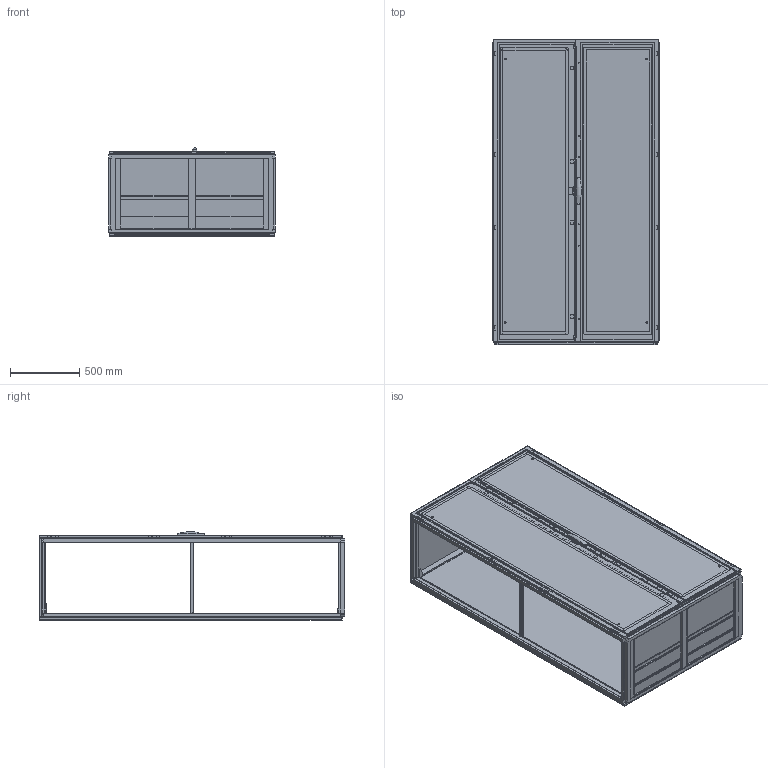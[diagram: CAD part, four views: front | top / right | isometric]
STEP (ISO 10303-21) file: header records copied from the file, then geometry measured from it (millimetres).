
FILE_DESCRIPTION(/* description */ ('STEP AP203'),/* implementation_level */ '2;1');
FILE_NAME(/* name */ 'MCD22126R5(0)',/* time_stamp */ '2024-02-27T15:24:53+01:00',/* author */ ('License CC BY-ND 4.0'),/* organization */ ('CADENAS'),/* preprocessor_version */ 'ST-DEVELOPER v19.3',/* originating_system */ 'PARTsolutions',/* authorisation */ ' ');
FILE_SCHEMA (('CONFIG_CONTROL_DESIGN'));
Length unit declared in the file: millimetre
Products named in the file (27): MCD22126R5(0); MCD22126R5_Frame; CRPK12(0)_Rear Panel Mounting Kit; CRP2212R5(0)_Rear Panel; CMB 600(0)_Middle Profile; CRPK12(0)_Rear Panel Bracket; DNMK02(0)_Hinge Right; DN2206RR5(0)_Right door; LSSDXXXX(0)_Lock; LSSD2200(0)_Espagnolette Top; LSSD2200(0)_Espagnolette Bottom; DNMK02(0)_Hinge Left; DN2206LR5(0)_Left door; LSEL2200(0)_Left Door Espagnolette; DNMK01(0)_Rod catches; CCR126R5(0)_Roof plate; LSSD2200(0)_Lock Catch; LSELXX12X(0)_Left Door Espagnolette; MPA06(0)_Mounting Plate Brackets 1; MP2212(0)_P1; MPA06(0)_Mounting Plate Brackets 2; MPA06(0)_Mounting Plate Brackets 3; MPA06(0)_Mounting Plate Brackets 4; Bottom Plate Profile_1200x600(0); CBPW1200D300(0)_Bottom Plate 3; CBP120(0)_Bottom Plate 1; CBP120(0)_Bottom Plate 2
Assembly tree (49 placements, depth 2):
  MCD22126R5(0)
    MCD22126R5_Frame
    CRPK12(0)_Rear Panel Mounting Kit  x8
    CRP2212R5(0)_Rear Panel
    CMB 600(0)_Middle Profile  x2
    CRPK12(0)_Rear Panel Bracket  x2
    DNMK02(0)_Hinge Right  x4
    DN2206RR5(0)_Right door
    LSSDXXXX(0)_Lock
    LSSD2200(0)_Espagnolette Top
    LSSD2200(0)_Espagnolette Bottom
    DNMK02(0)_Hinge Left  x4
    DN2206LR5(0)_Left door
    LSEL2200(0)_Left Door Espagnolette
    DNMK01(0)_Rod catches  x4
    CCR126R5(0)_Roof plate
    LSSD2200(0)_Lock Catch  x2
    LSELXX12X(0)_Left Door Espagnolette  x2
    MPA06(0)_Mounting Plate Brackets 1
    MP2212(0)_P1
    MPA06(0)_Mounting Plate Brackets 2
    MPA06(0)_Mounting Plate Brackets 3
    MPA06(0)_Mounting Plate Brackets 4
    Bottom Plate Profile_1200x600(0)
    CBPW1200D300(0)_Bottom Plate 3  x2
    CBP120(0)_Bottom Plate 1  x2
    CBP120(0)_Bottom Plate 2  x2
Bounding box: 1199 x 2203.5 x 634.91 mm (x, y, z)
Volume: 44649212.1 mm3; surface area: 23335807.5 mm2
Topology: 49 solids, 49 shells, 2320 faces, 6299 edges, 4155 vertices
Faces by surface type: plane 2048, cylinder 195, cone 74, sphere 2, torus 1
Full cylindrical faces by diameter (mm): 2.55 x2, 5 x26, 5.2 x2, 5.8 x2, 6 x6, 6.5 x2, 7 x6, 7.4 x4, 8 x22, 9 x2, 10 x12, 12.5 x1, 13 x3, 14 x6, 14.12 x1, 15 x4
Entity records: 54027 total; most frequent: CARTESIAN_POINT 9263, ORIENTED_EDGE 8840, DIRECTION 8275, EDGE_CURVE 4420, LINE 3987, VECTOR 3987, VERTEX_POINT 2982, AXIS2_PLACEMENT_3D 2144
